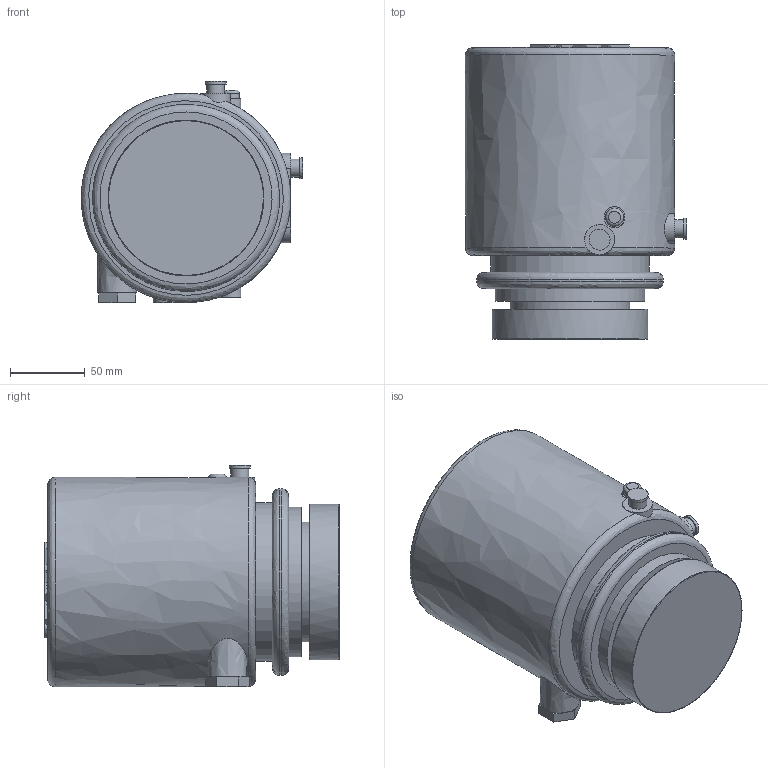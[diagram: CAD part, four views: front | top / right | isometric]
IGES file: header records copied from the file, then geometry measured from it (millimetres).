
Global section: file name: CU4 - maintainable; native system: Autodesk Inventor 2020; preprocessor: unknown; author: FA67NH; date: 20210423.134227; units: inch
Bounding box: 148 x 197 x 148 mm (x, y, z)
Volume: 2646504.2 mm3; surface area: 124692.9 mm2
Topology: 1 solids, 1 shells, 117 faces, 294 edges, 196 vertices
Faces by surface type: bspline 117
